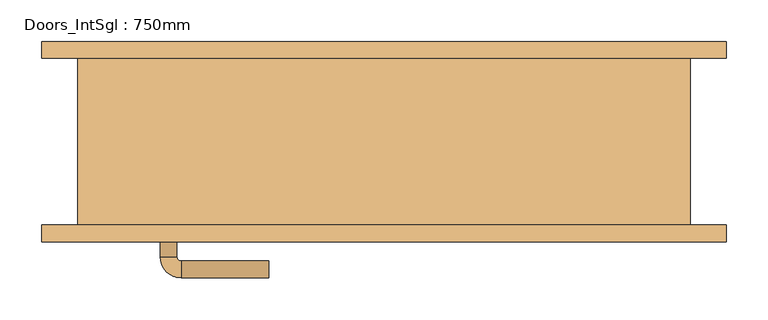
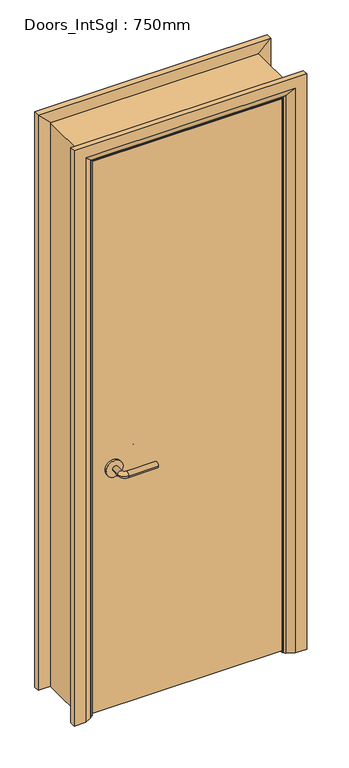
"""IFC4 building model written with IfcOpenShell, lengths in millimetres: door geometry, Doors_IntSgl : 750mm."""

from ifc_helpers import new_model, si_unit, point, frame, frame_2d, origin, place, context, project, spatial, polyline, circle_curve, ellipse_curve, trimmed, segment, composite_curve, outline, extrude, faceted_brep, source, transform, mapped, element, save
from ifc_brep_helpers import plane_surface, cylinder_surface, revolved_surface, advanced_brep


def doors_intsgl_750mm_7c3ae30e(model_context):
    return source(origin(), model_context, "Body", "SolidModel", [
        advanced_brep(
        [(-268.0, -54.0, 900.0), (-248.0, -54.0, 900.0), (-268.0, -24.0, 900.0), (-248.0, -24.0, 900.0), (-243.0, -19.0, 900.0), (-243.0, 1.0, 900.0), (-138.0, 1.0, 900.0), (-138.0, -19.0, 900.0)],
        [
            (0, 1, circle_curve(frame((-258.0, -54.0, 900.0), z_axis=(0.0, -1.0, 0.0), x_axis=(1.0, 0.0, 0.0)), 10.0)),
            (1, 0, circle_curve(frame((-258.0, -54.0, 900.0), z_axis=(0.0, -1.0, 0.0), x_axis=(1.0, 0.0, 0.0)), 10.0)),
            (0, 2),
            (2, 3, circle_curve(frame((-258.0, -24.0, 900.0), z_axis=(0.0, -1.0, 0.0), x_axis=(1.0, 0.0, 0.0)), 10.0)),
            (3, 1),
            (3, 2, circle_curve(frame((-258.0, -24.0, 900.0), z_axis=(0.0, -1.0, 0.0), x_axis=(1.0, 0.0, 0.0)), 10.0)),
            (4, 3, circle_curve(frame((-243.0, -24.0, 900.0), z_axis=(0.0, 0.0, 1.0), x_axis=(-1.0, 0.0, 0.0)), 5.0)),
            (2, 5, circle_curve(frame((-243.0, -24.0, 900.0), z_axis=(0.0, 0.0, -1.0), x_axis=(-1.0, 0.0, 0.0)), 25.0)),
            (5, 4, circle_curve(frame((-243.0, -9.0, 900.0), z_axis=(-1.0, 0.0, 0.0), x_axis=(0.0, -1.0, 0.0)), 10.0)),
            (4, 5, circle_curve(frame((-243.0, -9.0, 900.0), z_axis=(-1.0, 0.0, 0.0), x_axis=(0.0, -1.0, 0.0)), 10.0)),
            (6, 7, circle_curve(frame((-138.0, -9.0, 900.0), z_axis=(1.0, 0.0, 0.0), x_axis=(0.0, -1.0, 0.0)), 10.0)),
            (7, 6, circle_curve(frame((-138.0, -9.0, 900.0), z_axis=(1.0, 0.0, 0.0), x_axis=(0.0, -1.0, 0.0)), 10.0)),
            (5, 6),
            (7, 4),
        ],
        [
            plane_surface(frame((-258.0, -54.0, 900.0), z_axis=(0.0, -1.0, 0.0), x_axis=(0.0, 0.0, 1.0))),
            cylinder_surface(frame((-258.0, -54.0, 900.0), z_axis=(0.0, -1.0, 0.0), x_axis=(1.0, 0.0, 0.0)), 10.0),
            revolved_surface(trimmed(ellipse_curve(frame((-258.0, -24.0, 900.0), z_axis=(0.0, -1.0, 0.0), x_axis=(1.0, 0.0, 0.0)), 10.0, 10.0), [point((-268.0, -24.0, 900.0))], [point((-248.0, -24.0, 900.0))], True, "CARTESIAN"), (-243.0, -24.0, 900.0), (0.0, 0.0, -1.0)),
            revolved_surface(trimmed(ellipse_curve(frame((-258.0, -24.0, 900.0), z_axis=(0.0, -1.0, 0.0), x_axis=(1.0, 0.0, 0.0)), 10.0, 10.0), [point((-248.0, -24.0, 900.0))], [point((-268.0, -24.0, 900.0))], True, "CARTESIAN"), (-243.0, -24.0, 900.0), (0.0, 0.0, -1.0)),
            plane_surface(frame((-138.0, -9.0, 900.0), z_axis=(1.0, 0.0, 0.0), x_axis=(0.0, 0.0, 1.0))),
            cylinder_surface(frame((-243.0, -9.0, 900.0), z_axis=(-1.0, 0.0, 0.0), x_axis=(0.0, -1.0, 0.0)), 10.0),
        ],
        [
            (0, [[1, 2]]),
            (1, [[-1, 3, 4, 5]]),
            (1, [[-2, -5, 6, -3]]),
            (2, [[7, -4, 8, 9]]),
            (3, [[-8, -6, -7, 10]]),
            (4, [[11, 12]]),
            (5, [[-9, 13, -12, 14]]),
            (5, [[-10, -14, -11, -13]]),
        ],
    ),
        extrude(outline(composite_curve([segment(trimmed(circle_curve(frame_2d((900.0, -260.5)), 30.0), [point((900.0, -290.5))], [point((900.0, -230.5))], False, "CARTESIAN"), True, "CONTINUOUS"), segment(trimmed(circle_curve(frame_2d((900.0, -260.5)), 30.0), [point((900.0, -230.5))], [point((900.0, -290.5))], False, "CARTESIAN"), True, "CONTINUOUS")], self_intersect=False)), frame((0.0, -62.0, 0.0), z_axis=(0.0, 1.0, 0.0), x_axis=(0.0, 0.0, 1.0)), (0.0, 0.0, 1.0), 8.0),
        advanced_brep(
        [(-268.0, -108.0, 900.0), (-248.0, -108.0, 900.0), (-248.0, -138.0, 900.0), (-268.0, -138.0, 900.0), (-243.0, -143.0, 900.0), (-243.0, -163.0, 900.0), (-138.0, -163.0, 900.0), (-138.0, -143.0, 900.0)],
        [
            (0, 1, circle_curve(frame((-258.0, -108.0, 900.0), z_axis=(0.0, 1.0, 0.0), x_axis=(1.0, 0.0, 0.0)), 10.0)),
            (1, 0, circle_curve(frame((-258.0, -108.0, 900.0), z_axis=(0.0, 1.0, 0.0), x_axis=(1.0, 0.0, 0.0)), 10.0)),
            (1, 2),
            (2, 3, circle_curve(frame((-258.0, -138.0, 900.0), z_axis=(0.0, 1.0, 0.0), x_axis=(1.0, 0.0, 0.0)), 10.0)),
            (3, 0),
            (3, 2, circle_curve(frame((-258.0, -138.0, 900.0), z_axis=(0.0, 1.0, 0.0), x_axis=(1.0, 0.0, 0.0)), 10.0)),
            (4, 5, circle_curve(frame((-243.0, -153.0, 900.0), z_axis=(-1.0, 0.0, 0.0), x_axis=(0.0, 1.0, 0.0)), 10.0)),
            (5, 3, circle_curve(frame((-243.0, -138.0, 900.0), z_axis=(0.0, 0.0, -1.0), x_axis=(-1.0, 0.0, 0.0)), 25.0)),
            (2, 4, circle_curve(frame((-243.0, -138.0, 900.0), z_axis=(0.0, 0.0, 1.0), x_axis=(-1.0, 0.0, 0.0)), 5.0)),
            (5, 4, circle_curve(frame((-243.0, -153.0, 900.0), z_axis=(-1.0, 0.0, 0.0), x_axis=(0.0, 1.0, 0.0)), 10.0)),
            (6, 7, circle_curve(frame((-138.0, -153.0, 900.0), z_axis=(1.0, 0.0, 0.0), x_axis=(0.0, 1.0, 0.0)), 10.0)),
            (7, 6, circle_curve(frame((-138.0, -153.0, 900.0), z_axis=(1.0, 0.0, 0.0), x_axis=(0.0, 1.0, 0.0)), 10.0)),
            (4, 7),
            (6, 5),
        ],
        [
            plane_surface(frame((-258.0, -108.0, 900.0), z_axis=(0.0, 1.0, 0.0), x_axis=(0.0, 0.0, 1.0))),
            cylinder_surface(frame((-258.0, -108.0, 900.0), z_axis=(0.0, 1.0, 0.0), x_axis=(1.0, 0.0, 0.0)), 10.0),
            revolved_surface(trimmed(ellipse_curve(frame((-258.0, -138.0, 900.0), z_axis=(0.0, -1.0, 0.0), x_axis=(1.0, 0.0, 0.0)), 10.0, 10.0), [point((-268.0, -138.0, 900.0))], [point((-248.0, -138.0, 900.0))], True, "CARTESIAN"), (-243.0, -138.0, 900.0), (0.0, 0.0, -1.0)),
            revolved_surface(trimmed(ellipse_curve(frame((-258.0, -138.0, 900.0), z_axis=(0.0, -1.0, 0.0), x_axis=(1.0, 0.0, 0.0)), 10.0, 10.0), [point((-248.0, -138.0, 900.0))], [point((-268.0, -138.0, 900.0))], True, "CARTESIAN"), (-243.0, -138.0, 900.0), (0.0, 0.0, -1.0)),
            plane_surface(frame((-138.0, -153.0, 900.0), z_axis=(1.0, 0.0, 0.0), x_axis=(0.0, 0.0, 1.0))),
            cylinder_surface(frame((-243.0, -153.0, 900.0), z_axis=(-1.0, 0.0, 0.0), x_axis=(0.0, 1.0, 0.0)), 10.0),
        ],
        [
            (0, [[1, 2]]),
            (1, [[3, 4, 5, -2]]),
            (1, [[-5, 6, -3, -1]]),
            (2, [[7, 8, -4, 9]]),
            (3, [[10, -9, -6, -8]]),
            (4, [[11, 12]]),
            (5, [[13, -11, 14, -7]]),
            (5, [[-14, -12, -13, -10]]),
        ],
    ),
        extrude(outline(composite_curve([segment(trimmed(circle_curve(frame_2d((900.0, -260.5)), 30.0), [point((900.0, -290.5))], [point((900.0, -230.5))], False, "CARTESIAN"), True, "CONTINUOUS"), segment(trimmed(circle_curve(frame_2d((900.0, -260.5)), 30.0), [point((900.0, -230.5))], [point((900.0, -290.5))], False, "CARTESIAN"), True, "CONTINUOUS")], self_intersect=False)), frame((0.0, -108.0, 0.0), z_axis=(0.0, 1.0, 0.0), x_axis=(0.0, 0.0, 1.0)), (0.0, 0.0, 1.0), 8.0),
        extrude(outline(polyline([(333.0, -62.0), (333.0, -100.0), (-333.0, -100.0), (-333.0, -62.0), (333.0, -62.0)])), frame((0.0, 0.0, 8.0), z_axis=(0.0, 0.0, 1.0), x_axis=(1.0, 0.0, 0.0)), (0.0, 0.0, 1.0), 2060.0),
        advanced_brep(
        [(410.0, -120.0, 0.0), (370.0, -120.0, 0.0), (344.0, -106.0, 0.0), (340.0, -100.0, 0.0), (410.0, -100.0, 0.0), (410.0, -100.0, 2145.0), (410.0, -120.0, 2145.0), (340.0, -100.0, 2075.0), (-340.0, -100.0, 2075.0), (-340.0, -100.0, 0.0), (-410.0, -100.0, 0.0), (-410.0, -100.0, 2145.0), (344.0, -106.0, 2079.0), (370.0, -120.0, 2105.0), (-410.0, -120.0, 2145.0), (-410.0, -120.0, 0.0), (-370.0, -120.0, 0.0), (-370.0, -120.0, 2105.0), (-344.0, -106.0, 0.0), (-344.0, -106.0, 2079.0)],
        [
            (0, 1),
            (1, 2),
            (2, 3, circle_curve(frame((348.0, -99.0, 0.0), z_axis=(0.0, 0.0, -1.0), x_axis=(1.0, 0.0, 0.0)), 8.0622577)),
            (3, 4),
            (4, 0),
            (4, 5),
            (5, 6),
            (6, 0),
            (3, 7),
            (7, 8),
            (8, 9),
            (9, 10),
            (10, 11),
            (11, 5),
            (2, 12),
            (12, 7, ellipse_curve(frame((348.0, -99.0, 2083.0), z_axis=(0.7071067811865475, 0.0, -0.7071067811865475), x_axis=(-0.7071067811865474, 0.0, -0.7071067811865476)), 11.4017543, 8.0622577)),
            (1, 13),
            (13, 12),
            (6, 14),
            (14, 15),
            (15, 16),
            (16, 17),
            (17, 13),
            (10, 15),
            (14, 11),
            (9, 18, circle_curve(frame((-348.0, -99.0, 0.0), z_axis=(0.0, 0.0, -1.0), x_axis=(-1.0, 0.0, 0.0)), 8.0622577)),
            (18, 16),
            (19, 18),
            (8, 19, ellipse_curve(frame((-348.0, -99.0, 2083.0), z_axis=(-0.7071067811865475, 0.0, -0.7071067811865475), x_axis=(-0.7071067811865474, 0.0, 0.7071067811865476)), 11.4017543, 8.0622577)),
            (19, 17),
            (12, 19),
        ],
        [
            plane_surface(frame((340.0, -100.0, 0.0), z_axis=(0.0, 0.0, -1.0), x_axis=(0.0, 1.0, 0.0))),
            plane_surface(frame((410.0, -120.0, 0.0), z_axis=(1.0, 0.0, 0.0), x_axis=(0.0, 0.0, 1.0))),
            plane_surface(frame((410.0, -100.0, 0.0), z_axis=(0.0, 1.0, 0.0), x_axis=(0.0, 0.0, 1.0))),
            cylinder_surface(frame((348.0, -99.0, 0.0), z_axis=(0.0, 0.0, -1.0), x_axis=(1.0, 0.0, 0.0)), 8.0622577),
            plane_surface(frame((344.0, -106.0, 0.0), z_axis=(-0.4740998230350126, -0.880471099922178, 0.0), x_axis=(0.0, 0.0, 1.0))),
            plane_surface(frame((370.0, -120.0, 0.0), z_axis=(0.0, -1.0, 0.0), x_axis=(0.0, 0.0, 1.0))),
            plane_surface(frame((-410.0, -120.0, 2145.0), z_axis=(-1.0, 0.0, 0.0), x_axis=(0.0, 0.0, -1.0))),
            plane_surface(frame((-340.0, -100.0, 0.0), z_axis=(0.0, 0.0, -1.0), x_axis=(0.0, 1.0, 0.0))),
            cylinder_surface(frame((-348.0, -99.0, 2075.0), z_axis=(0.0, 0.0, 1.0), x_axis=(-1.0, 0.0, 0.0)), 8.0622577),
            plane_surface(frame((-344.0, -106.0, 2079.0), z_axis=(0.47409982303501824, -0.8804710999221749, 0.0), x_axis=(0.0, 0.0, -1.0))),
            plane_surface(frame((410.0, -120.0, 2145.0), z_axis=(0.0, 0.0, 1.0), x_axis=(-1.0, 0.0, 0.0))),
            cylinder_surface(frame((340.0, -99.0, 2083.0), z_axis=(1.0, 0.0, 0.0), x_axis=(0.0, 0.0, 1.0)), 8.0622577),
            plane_surface(frame((344.0, -106.0, 2079.0), z_axis=(0.0, -0.8804710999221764, -0.4740998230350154), x_axis=(-1.0, 0.0, 0.0))),
        ],
        [
            (0, [[1, 2, 3, 4, 5]]),
            (1, [[6, 7, 8, -5]]),
            (2, [[9, 10, 11, 12, 13, 14, -6, -4]]),
            (3, [[15, 16, -9, -3]]),
            (4, [[17, 18, -15, -2]]),
            (5, [[-8, 19, 20, 21, 22, 23, -17, -1]]),
            (6, [[-13, 24, -20, 25]]),
            (7, [[-24, -12, 26, 27, -21]]),
            (8, [[28, -26, -11, 29]]),
            (9, [[-22, -27, -28, 30]]),
            (10, [[-14, -25, -19, -7]]),
            (11, [[31, -29, -10, -16]]),
            (12, [[-23, -30, -31, -18]]),
        ],
    ),
        extrude(outline(polyline([(0.0, -316.0), (2051.0, -316.0), (2051.0, 316.0), (0.0, 316.0), (0.0, 335.0), (2070.0, 335.0), (2070.0, -335.0), (0.0, -335.0), (0.0, -316.0)])), frame((0.0, -60.0, 0.0), z_axis=(0.0, 1.0, 0.0), x_axis=(0.0, 0.0, 1.0)), (0.0, 0.0, 1.0), 32.0),
        advanced_brep(
        [(-410.0, 120.0, 0.0), (-370.0, 120.0, 0.0), (-344.0, 106.0, 0.0), (-340.0, 100.0, 0.0), (-410.0, 100.0, 0.0), (-410.0, 100.0, 2145.0), (-410.0, 120.0, 2145.0), (-340.0, 100.0, 2075.0), (-344.0, 106.0, 2079.0), (-370.0, 120.0, 2105.0), (410.0, 120.0, 0.0), (410.0, 100.0, 0.0), (340.0, 100.0, 0.0), (344.0, 106.0, 0.0), (370.0, 120.0, 0.0), (410.0, 120.0, 2145.0), (370.0, 120.0, 2105.0), (344.0, 106.0, 2079.0), (340.0, 100.0, 2075.0), (410.0, 100.0, 2145.0)],
        [
            (0, 1),
            (1, 2),
            (2, 3, circle_curve(frame((-348.0, 99.0, 0.0), z_axis=(0.0, 0.0, -1.0), x_axis=(-1.0, 0.0, 0.0)), 8.0622577)),
            (3, 4),
            (4, 0),
            (4, 5),
            (5, 6),
            (6, 0),
            (3, 7),
            (7, 5),
            (2, 8),
            (8, 7, ellipse_curve(frame((-348.0, 99.0, 2083.0), z_axis=(-0.7071067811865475, 0.0, -0.7071067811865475), x_axis=(0.7071067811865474, 0.0, -0.7071067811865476)), 11.4017543, 8.0622577)),
            (1, 9),
            (9, 8),
            (6, 9),
            (10, 11),
            (11, 12),
            (12, 13, circle_curve(frame((348.0, 99.0, 0.0), z_axis=(0.0, 0.0, -1.0), x_axis=(1.0, 0.0, 0.0)), 8.0622577)),
            (13, 14),
            (14, 10),
            (15, 10),
            (14, 16),
            (16, 15),
            (13, 17),
            (17, 16),
            (12, 18),
            (18, 17, ellipse_curve(frame((348.0, 99.0, 2083.0), z_axis=(0.7071067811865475, 0.0, -0.7071067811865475), x_axis=(0.7071067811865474, 0.0, 0.7071067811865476)), 11.4017543, 8.0622577)),
            (11, 19),
            (19, 18),
            (15, 19),
            (5, 19),
            (15, 6),
            (7, 18),
            (8, 17),
            (9, 16),
        ],
        [
            plane_surface(frame((-340.0, 172.8010989, 0.0), z_axis=(0.0, 0.0, -1.0), x_axis=(1.0, 0.0, 0.0))),
            plane_surface(frame((-410.0, 120.0, 0.0), z_axis=(-1.0, 0.0, 0.0), x_axis=(0.0, 0.0, 1.0))),
            plane_surface(frame((-410.0, 100.0, 0.0), z_axis=(0.0, -1.0, 0.0), x_axis=(0.0, 0.0, 1.0))),
            cylinder_surface(frame((-348.0, 99.0, 0.0), z_axis=(0.0, 0.0, -1.0), x_axis=(-1.0, 0.0, 0.0)), 8.0622577),
            plane_surface(frame((-344.0, 106.0, 0.0), z_axis=(0.4740998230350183, 0.8804710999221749, 0.0), x_axis=(0.0, 0.0, 1.0))),
            plane_surface(frame((-370.0, 120.0, 0.0), z_axis=(0.0, 1.0, 0.0), x_axis=(0.0, 0.0, 1.0))),
            plane_surface(frame((340.0, 172.8010989, 0.0), z_axis=(0.0, 0.0, -1.0), x_axis=(-1.0, 0.0, 0.0))),
            plane_surface(frame((370.0, 120.0, 2105.0), z_axis=(0.0, 1.0, 0.0), x_axis=(0.0, 0.0, -1.0))),
            plane_surface(frame((344.0, 106.0, 2079.0), z_axis=(-0.4740998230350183, 0.8804710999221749, 0.0), x_axis=(0.0, 0.0, -1.0))),
            cylinder_surface(frame((348.0, 99.0, 2075.0), z_axis=(0.0, 0.0, 1.0), x_axis=(1.0, 0.0, 0.0)), 8.0622577),
            plane_surface(frame((410.0, 100.0, 2145.0), z_axis=(0.0, -1.0, 0.0), x_axis=(0.0, 0.0, -1.0))),
            plane_surface(frame((410.0, 120.0, 2145.0), z_axis=(1.0, 0.0, 0.0), x_axis=(0.0, 0.0, -1.0))),
            plane_surface(frame((-410.0, 120.0, 2145.0), z_axis=(0.0, 0.0, 1.0), x_axis=(1.0, 0.0, 0.0))),
            plane_surface(frame((-410.0, 100.0, 2145.0), z_axis=(0.0, -1.0, 0.0), x_axis=(1.0, 0.0, 0.0))),
            cylinder_surface(frame((-340.0, 99.0, 2083.0), z_axis=(-1.0, 0.0, 0.0), x_axis=(0.0, 0.0, 1.0)), 8.0622577),
            plane_surface(frame((-344.0, 106.0, 2079.0), z_axis=(0.0, 0.8804710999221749, -0.4740998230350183), x_axis=(1.0, 0.0, 0.0))),
            plane_surface(frame((-370.0, 120.0, 2105.0), z_axis=(0.0, 1.0, 0.0), x_axis=(1.0, 0.0, 0.0))),
        ],
        [
            (0, [[1, 2, 3, 4, 5]]),
            (1, [[6, 7, 8, -5]]),
            (2, [[9, 10, -6, -4]]),
            (3, [[11, 12, -9, -3]]),
            (4, [[13, 14, -11, -2]]),
            (5, [[-8, 15, -13, -1]]),
            (6, [[16, 17, 18, 19, 20]]),
            (7, [[21, -20, 22, 23]]),
            (8, [[-22, -19, 24, 25]]),
            (9, [[-24, -18, 26, 27]]),
            (10, [[-26, -17, 28, 29]]),
            (11, [[-28, -16, -21, 30]]),
            (12, [[31, -30, 32, -7]]),
            (13, [[33, -29, -31, -10]]),
            (14, [[34, -27, -33, -12]]),
            (15, [[35, -25, -34, -14]]),
            (16, [[-32, -23, -35, -15]]),
        ],
    ),
        faceted_brep([(-335.0, -100.0, 0.0), (-367.0, -100.0, 0.0), (-367.0, 100.0, 0.0), (-335.0, 100.0, 0.0), (-335.0, 100.0, 2070.0), (-335.0, -100.0, 2070.0), (-367.0, 100.0, 2102.0), (-367.0, -100.0, 2102.0), (335.0, -100.0, 0.0), (335.0, 100.0, 0.0), (367.0, 100.0, 0.0), (367.0, -100.0, 0.0), (335.0, -100.0, 2070.0), (367.0, -100.0, 2102.0), (367.0, 100.0, 2102.0), (335.0, 100.0, 2070.0)], [[[0, 1, 2, 3]], [[3, 4, 5, 0]], [[2, 6, 4, 3]], [[1, 7, 6, 2]], [[0, 5, 7, 1]], [[8, 9, 10, 11]], [[12, 8, 11, 13]], [[13, 11, 10, 14]], [[14, 10, 9, 15]], [[15, 9, 8, 12]], [[4, 15, 12, 5]], [[6, 14, 15, 4]], [[7, 13, 14, 6]], [[5, 12, 13, 7]]]),
    ])


if __name__ == "__main__":
    model = new_model("IFC4")
    model_context = context("Model", 3, world=origin())
    ifc_project = project(units=[si_unit("LENGTHUNIT", "METRE", prefix="MILLI")], contexts=[model_context])
    site = spatial("IfcSite", under=ifc_project)
    building = spatial("IfcBuilding", under=site)
    placement = place(None, origin())
    doors_intsgl_750mm_shape = doors_intsgl_750mm_7c3ae30e(model_context)
    element("IfcDoor", 1, ObjectType="Doors_IntSgl : 750mm", at=placement, inside=building, context=model_context, shape_type="MappedRepresentation", body=[
        mapped(doors_intsgl_750mm_shape, transform((0.0, 0.0, 0.0), x_axis=(1.0, 0.0, 0.0), y_axis=(0.0, 1.0, 0.0), z_axis=(0.0, 0.0, 1.0))),
    ])
    save(model, "model.ifc")
